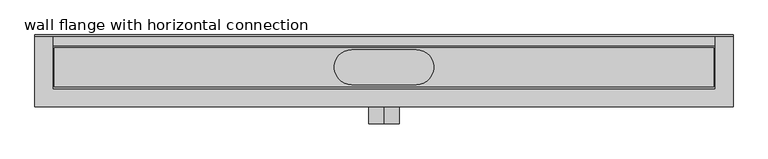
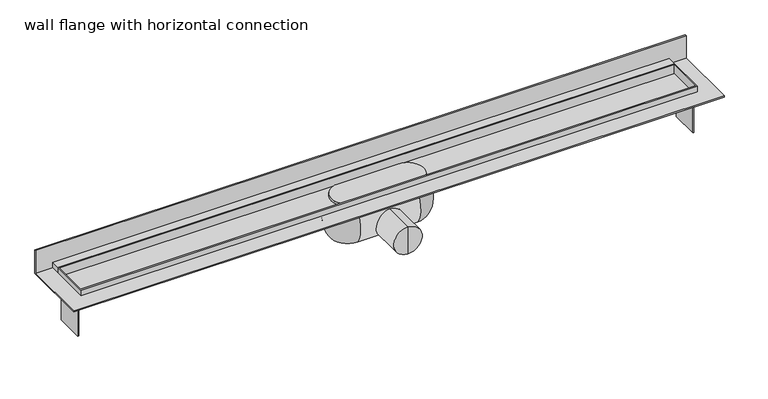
"""IFC4 building model written with IfcOpenShell, lengths in millimetres: sanitary terminal geometry, PF_ST_UN_ShowerDrain C INT_ACO : wall flange with horizontal connection."""

from ifc_helpers import new_model, si_unit, point, frame, origin, origin_with_axes, place, context, project, spatial, polyline, circle_curve, ellipse_curve, trimmed, outline, extrude, faceted_brep, source, transform, mapped, element, save
from ifc_brep_helpers import plane_surface, cylinder_surface, revolved_surface, advanced_brep


def wall_flange_with_horizontal_connection_3926017e(model_context):
    return source(origin(), model_context, "Body", "SolidModel", [
        advanced_brep(
        [(-52.8420194, -28.757915, 0.0), (-52.8420194, 28.757915, 0.0), (-52.8420194, 28.757915, -11.7509027), (-52.8420194, -28.757915, -11.7509027), (-52.8420194, 20.3622022, -75.4877048), (-52.8420194, -20.3622022, -75.4877048), (-52.8420194, -30.8518848, -71.7143523), (-52.8420194, 30.8518848, -71.7143523), (52.8420194, -28.757915, 0.0), (52.8420194, -28.757915, -11.7509027), (52.8420194, -30.8518848, -71.7143523), (52.8420194, -20.3622022, -75.4877048), (52.8420194, 20.3622022, -75.4877048), (52.8420194, 30.8518848, -71.7143523), (52.8420194, 28.757915, -11.7509027), (52.8420194, 28.757915, 0.0)],
        [
            (0, 1, circle_curve(frame((-52.8420194, 0.0, 0.0), z_axis=(0.0, 0.0, -1.0), x_axis=(0.0, 1.0, 0.0)), 28.757915)),
            (1, 2),
            (2, 3, circle_curve(frame((-52.8420194, 0.0, -11.7509027), z_axis=(0.0, 0.0, 1.0), x_axis=(0.0, 1.0, 0.0)), 28.757915)),
            (3, 0),
            (4, 5, circle_curve(frame((-52.8420194, 0.0, -75.4877048), z_axis=(0.0, 0.0, 1.0), x_axis=(0.0, 1.0, 0.0)), 20.3622022)),
            (5, 6, circle_curve(frame((-52.8420194, -20.3622022, -59.0206997), z_axis=(-1.0, 0.0, 0.0), x_axis=(0.0, 1.0, 0.0)), 16.4670051)),
            (6, 7, circle_curve(frame((-52.8420194, 0.0, -71.7143523), z_axis=(0.0, 0.0, -1.0), x_axis=(0.0, 1.0, 0.0)), 30.8518848)),
            (7, 4, circle_curve(frame((-52.8420194, 20.3622022, -59.0206997), z_axis=(-1.0, 0.0, 0.0), x_axis=(0.0, -1.0, 0.0)), 16.4670051)),
            (2, 7, circle_curve(frame((-52.8420194, -11.2789491, -43.1673071), z_axis=(-1.0, 0.0, 0.0), x_axis=(0.0, -1.0, 0.0)), 50.8914625)),
            (6, 3, circle_curve(frame((-52.8420194, 11.2789491, -43.1673071), z_axis=(-1.0, 0.0, 0.0), x_axis=(0.0, 1.0, 0.0)), 50.8914625)),
            (8, 0),
            (3, 9),
            (9, 8),
            (6, 10),
            (10, 9, circle_curve(frame((52.8420194, 11.2789491, -43.1673071), z_axis=(-1.0, 0.0, 0.0), x_axis=(0.0, 1.0, 0.0)), 50.8914625)),
            (5, 11),
            (11, 10, circle_curve(frame((52.8420194, -20.3622022, -59.0206997), z_axis=(-1.0, 0.0, 0.0), x_axis=(0.0, 1.0, 0.0)), 16.4670051)),
            (4, 12),
            (12, 11, circle_curve(frame((52.8420194, 0.0, -75.4877048), z_axis=(0.0, 0.0, -1.0), x_axis=(0.0, 1.0, 0.0)), 20.3622022)),
            (7, 13),
            (13, 12, circle_curve(frame((52.8420194, 20.3622022, -59.0206997), z_axis=(-1.0, 0.0, 0.0), x_axis=(0.0, -1.0, 0.0)), 16.4670051)),
            (2, 14),
            (14, 13, circle_curve(frame((52.8420194, -11.2789491, -43.1673071), z_axis=(-1.0, 0.0, 0.0), x_axis=(0.0, -1.0, 0.0)), 50.8914625)),
            (1, 15),
            (15, 14),
            (8, 15, circle_curve(frame((52.8420194, 0.0, 0.0), z_axis=(0.0, 0.0, 1.0), x_axis=(0.0, 1.0, 0.0)), 28.757915)),
            (9, 14, circle_curve(frame((52.8420194, 0.0, -11.7509027), z_axis=(0.0, 0.0, 1.0), x_axis=(0.0, 1.0, 0.0)), 28.757915)),
            (10, 13, circle_curve(frame((52.8420194, 0.0, -71.7143523), z_axis=(0.0, 0.0, 1.0), x_axis=(0.0, 1.0, 0.0)), 30.8518848)),
        ],
        [
            cylinder_surface(frame((-52.8420194, 0.0, 20.0), z_axis=(0.0, 0.0, 1.0), x_axis=(0.0, 1.0, 0.0)), 28.757915),
            revolved_surface(trimmed(ellipse_curve(frame((-52.8420194, 20.3622022, -59.0206997), z_axis=(1.0, 0.0, 0.0), x_axis=(0.0, -1.0, 0.0)), 16.4670051, 16.4670051), [point((-52.8420194, 20.3622022, -75.4877048))], [point((-52.8420194, 30.8518848, -71.7143523))], True, "CARTESIAN"), (-52.8420194, 0.0, 20.0), (0.0, 0.0, 1.0)),
            revolved_surface(trimmed(ellipse_curve(frame((-52.8420194, -11.2789491, -43.1673071), z_axis=(1.0, 0.0, 0.0), x_axis=(0.0, -1.0, 0.0)), 50.8914625, 50.8914625), [point((-52.8420194, 30.8518848, -71.7143523))], [point((-52.8420194, 28.757915, -11.7509027))], True, "CARTESIAN"), (-52.8420194, 0.0, 20.0), (0.0, 0.0, 1.0)),
            plane_surface(frame((52.8420194, -28.757915, 0.0), z_axis=(0.0, -1.0, 0.0), x_axis=(-1.0, 0.0, 0.0))),
            cylinder_surface(frame((-52.8420194, 11.2789491, -43.1673071), z_axis=(1.0, 0.0, 0.0), x_axis=(0.0, 1.0, 0.0)), 50.8914625),
            cylinder_surface(frame((-52.8420194, -20.3622022, -59.0206997), z_axis=(1.0, 0.0, 0.0), x_axis=(0.0, 1.0, 0.0)), 16.4670051),
            plane_surface(frame((52.8420194, -20.3622022, -75.4877048), z_axis=(0.0, 0.0, -1.0), x_axis=(-1.0, 0.0, 0.0))),
            cylinder_surface(frame((-52.8420194, 20.3622022, -59.0206997), z_axis=(1.0, 0.0, 0.0), x_axis=(0.0, -1.0, 0.0)), 16.4670051),
            cylinder_surface(frame((-52.8420194, -11.2789491, -43.1673071), z_axis=(1.0, 0.0, 0.0), x_axis=(0.0, -1.0, 0.0)), 50.8914625),
            plane_surface(frame((52.8420194, 28.757915, -11.7509027), z_axis=(0.0, 1.0, 0.0), x_axis=(-1.0, 0.0, 0.0))),
            plane_surface(frame((52.8420194, 28.757915, 0.0), z_axis=(0.0, 0.0, 1.0), x_axis=(-1.0, 0.0, 0.0))),
            cylinder_surface(frame((52.8420194, 0.0, 20.0), z_axis=(0.0, 0.0, 1.0), x_axis=(0.0, 1.0, 0.0)), 28.757915),
            revolved_surface(trimmed(ellipse_curve(frame((52.8420194, -11.2789491, -43.1673071), z_axis=(1.0, 0.0, 0.0), x_axis=(0.0, -1.0, 0.0)), 50.8914625, 50.8914625), [point((52.8420194, 30.8518848, -71.7143523))], [point((52.8420194, 28.757915, -11.7509027))], True, "CARTESIAN"), (52.8420194, 0.0, 20.0), (0.0, 0.0, 1.0)),
            revolved_surface(trimmed(ellipse_curve(frame((52.8420194, 20.3622022, -59.0206997), z_axis=(1.0, 0.0, 0.0), x_axis=(0.0, -1.0, 0.0)), 16.4670051, 16.4670051), [point((52.8420194, 20.3622022, -75.4877048))], [point((52.8420194, 30.8518848, -71.7143523))], True, "CARTESIAN"), (52.8420194, 0.0, 20.0), (0.0, 0.0, 1.0)),
        ],
        [
            (0, [[1, 2, 3, 4]]),
            (1, [[5, 6, 7, 8]]),
            (2, [[-3, 9, -7, 10]]),
            (3, [[11, -4, 12, 13]]),
            (4, [[-12, -10, 14, 15]]),
            (5, [[-14, -6, 16, 17]]),
            (6, [[-16, -5, 18, 19]]),
            (7, [[-18, -8, 20, 21]]),
            (8, [[-20, -9, 22, 23]]),
            (9, [[-22, -2, 24, 25]]),
            (10, [[-11, 26, -24, -1]]),
            (11, [[27, -25, -26, -13]]),
            (12, [[-27, -15, 28, -23]]),
            (13, [[-28, -17, -19, -21]]),
        ],
    ),
        advanced_brep(
        [(0.0, -92.5, -50.4496), (0.0, -92.5, -25.404795), (0.0, -92.5, -75.494405), (0.0, -23.2223331, -75.494405), (0.0, -23.2223331, -25.404795), (0.0, -23.2223331, -50.4496)],
        [
            (0, 1),
            (1, 2, circle_curve(frame((0.0, -92.5, -50.4496), z_axis=(0.0, -1.0, 0.0), x_axis=(0.0, 0.0, 1.0)), 25.044805)),
            (2, 0),
            (2, 1, circle_curve(frame((0.0, -92.5, -50.4496), z_axis=(0.0, -1.0, 0.0), x_axis=(0.0, 0.0, 1.0)), 25.044805)),
            (3, 4, circle_curve(frame((0.0, -23.2223331, -50.4496), z_axis=(0.0, 1.0, 0.0), x_axis=(0.0, 0.0, 1.0)), 25.044805)),
            (4, 5),
            (5, 3),
            (4, 3, circle_curve(frame((0.0, -23.2223331, -50.4496), z_axis=(0.0, 1.0, 0.0), x_axis=(0.0, 0.0, 1.0)), 25.044805)),
            (1, 4),
            (3, 2),
        ],
        [
            plane_surface(frame((0.0, -92.5, -50.4496), z_axis=(0.0, -1.0, 0.0), x_axis=(0.0, 0.0, 1.0))),
            plane_surface(frame((0.0, -23.2223331, -50.4496), z_axis=(0.0, 1.0, 0.0), x_axis=(0.0, 0.0, 1.0))),
            cylinder_surface(frame((0.0, -92.5, -50.4496), z_axis=(0.0, -1.0, 0.0), x_axis=(0.0, 0.0, 1.0)), 25.044805),
        ],
        [
            (0, [[1, 2, 3]]),
            (0, [[-3, 4, -1]]),
            (1, [[5, 6, 7]]),
            (1, [[8, -7, -6]]),
            (2, [[-2, 9, -5, 10]]),
            (2, [[-4, -10, -8, -9]]),
        ],
    ),
        extrude(outline(polyline([(572.5, 51.0), (-572.5, 51.0), (-572.5, 53.0), (572.5, 53.0), (572.5, 51.0)])), origin_with_axes(), (0.0, 0.0, 1.0), 44.0),
        extrude(outline(polyline([(542.5, 51.0), (542.5, 35.0), (-542.5, 35.0), (-542.5, 51.0), (542.5, 51.0)])), origin_with_axes(), (0.0, 0.0, 1.0), 12.0),
        faceted_brep([(542.5, 35.0, 12.0), (-542.5, 35.0, 12.0), (-542.5, -35.0, 12.0), (542.5, -35.0, 12.0), (-540.5, 32.0, 12.0), (540.5, 32.0, 12.0), (540.5, -32.0, 12.0), (-540.5, -32.0, 12.0), (542.5, -35.0, -6.0), (-542.5, -35.0, -6.0), (-542.5, -25.0, -6.0), (-540.5, -25.0, -6.0), (-540.5, 25.0, -6.0), (-542.5, 25.0, -6.0), (-542.5, 35.0, -6.0), (542.5, 35.0, -6.0), (542.5, 25.0, -6.0), (540.5, 25.0, -6.0), (540.5, -25.0, -6.0), (542.5, -25.0, -6.0), (-542.5, 25.0, -80.0), (-542.5, -25.0, -80.0), (542.5, -25.0, -80.0), (542.5, 25.0, -80.0), (540.5, 32.0, -4.0), (-540.5, 32.0, -4.0), (-540.5, -32.0, -4.0), (540.5, -32.0, -4.0), (540.5, -25.0, -80.0), (-540.5, -25.0, -80.0), (-540.5, 25.0, -80.0), (540.5, 25.0, -80.0)], [[[0, 1, 2, 3], [4, 5, 6, 7]], [[8, 9, 10, 11, 12, 13, 14, 15, 16, 17, 18, 19]], [[1, 0, 15, 14]], [[2, 1, 14, 13, 20, 21, 10, 9]], [[3, 2, 9, 8]], [[0, 3, 8, 19, 22, 23, 16, 15]], [[24, 25, 26, 27]], [[25, 24, 5, 4]], [[26, 25, 4, 7]], [[27, 26, 7, 6]], [[24, 27, 6, 5]], [[22, 19, 18, 28]], [[21, 29, 11, 10]], [[20, 13, 12, 30]], [[23, 31, 17, 16]], [[29, 21, 20, 30]], [[11, 29, 30, 12]], [[28, 18, 17, 31]], [[22, 28, 31, 23]]]),
        extrude(outline(polyline([(572.5, 51.0), (572.5, -65.0), (-572.5, -65.0), (-572.5, 51.0), (572.5, 51.0)]), holes=[polyline([(540.5, 32.0), (-540.5, 32.0), (-540.5, -32.0), (540.5, -32.0), (540.5, 32.0)])]), origin_with_axes(), (0.0, 0.0, 1.0), 2.0),
    ])


if __name__ == "__main__":
    model = new_model("IFC4")
    model_context = context("Model", 3, world=origin())
    ifc_project = project(units=[si_unit("LENGTHUNIT", "METRE", prefix="MILLI")], contexts=[model_context])
    site = spatial("IfcSite", under=ifc_project)
    building = spatial("IfcBuilding", under=site)
    placement = place(None, origin())
    wall_flange_with_horizontal_connection_shape = wall_flange_with_horizontal_connection_3926017e(model_context)
    element("IfcSanitaryTerminal", 1, ObjectType="PF_ST_UN_ShowerDrain C INT_ACO : wall flange with horizontal connection", at=placement, inside=building, context=model_context, shape_type="MappedRepresentation", body=[
        mapped(wall_flange_with_horizontal_connection_shape, transform((0.0, 0.0, 0.0), x_axis=(1.0, 0.0, 0.0), y_axis=(0.0, 1.0, 0.0), z_axis=(0.0, 0.0, 1.0))),
    ])
    save(model, "model.ifc")
